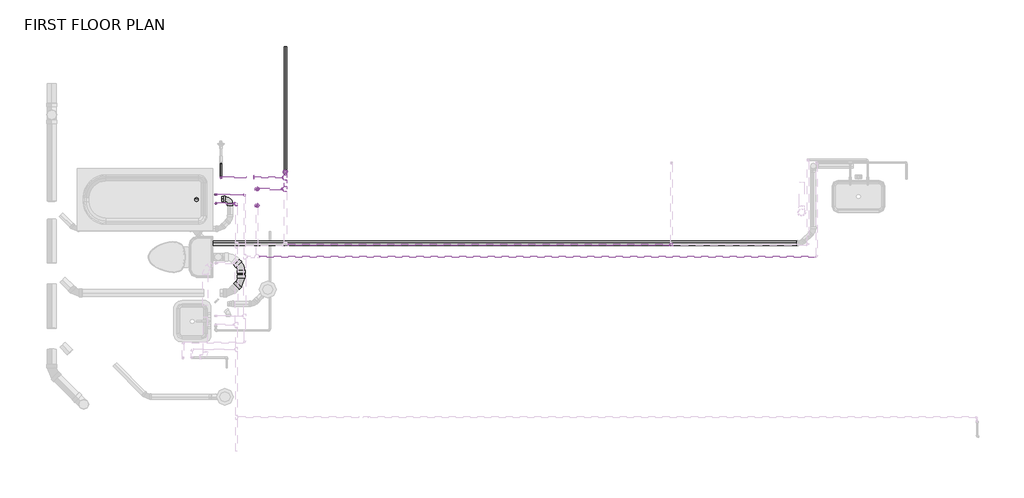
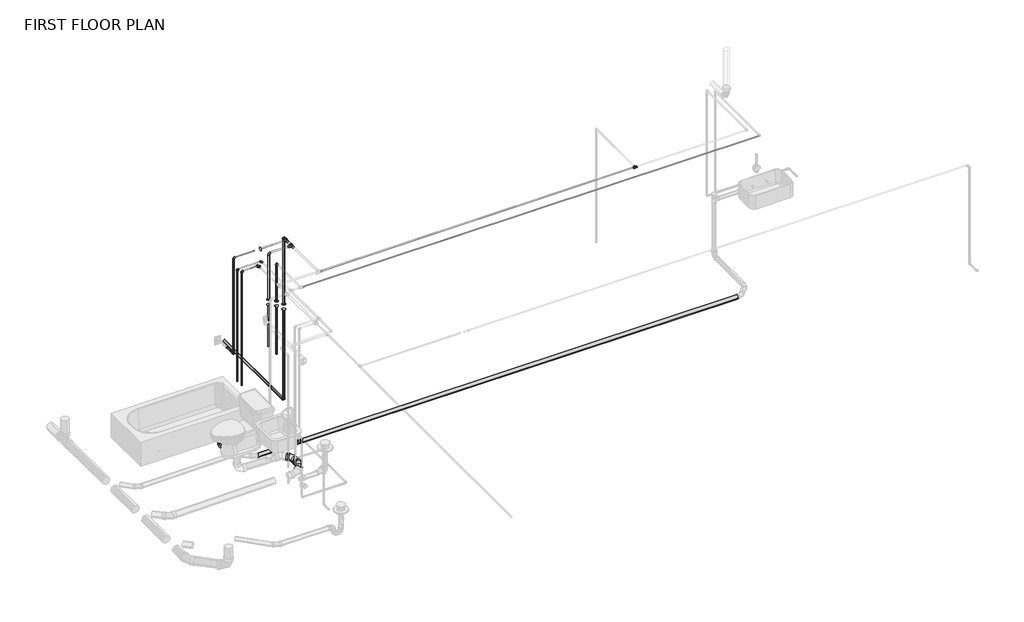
# One storey, part 4 of 5: 29 pipe fittings, 25 pipe segments.
"""IFC4 building model written with IfcOpenShell, lengths in millimetres."""

from ifc_helpers import new_model, si_unit, point, frame, frame_2d, origin, place, context, project, spatial, circle_curve, trimmed, segment, composite_curve, outline, extrude, transform, mapped, element, save
from components import bend_pvc_sch_40_dwv_standard_077d20b3, bend_pvc_sch_40_dwv_standard_3aed0458, bend_pvc_sch_40_dwv_standard_0afe4493, pipe_elbow_copper_k_feaaf02c, pipe_elbow_copper_k_a25a5501, pipe_elbow_copper_k_aad62f2d, pipe_elbow_copper_k_77fd4e2d, pipe_tee_copper_k_feafe2f1, pipe_tee_copper_k_1a6ca384, pipe_transition_copper_k_b4f16853, pipe_transition_copper_k_5e01dc24, pipe_transition_copper_k_b63fd5dd, pipe_transition_copper_k_7e8567c1, pipe_transition_copper_k_7620e501, pipe_transition_copper_k_f6820026, pipe_transition_copper_k_a6841901, standard_73d07651

model = new_model("IFC4")

# Units and contexts
model_context = context("Model", 3, world=origin())
ifc_project = project(units=[si_unit("LENGTHUNIT", "METRE", prefix="MILLI")], contexts=[model_context])

# Site, building, storey
site = spatial("IfcSite", under=ifc_project)
building = spatial("IfcBuilding", under=site)
storey = spatial("IfcBuildingStorey", under=building, Name="FIRST FLOOR PLAN", Elevation=0.0)

# Pipe fittings
placement = place(None, origin())
bend_pvc_sch_40_dwv_standard_shape = bend_pvc_sch_40_dwv_standard_077d20b3(model_context)
element("IfcPipeFitting", 1, ObjectType="Bend - PVC - Sch 40 - DWV : Standard", at=placement, inside=storey, context=model_context, shape_type="MappedRepresentation", body=[
    mapped(bend_pvc_sch_40_dwv_standard_shape, transform((-7069.1798887, 5136.4671175, -314.075923), x_axis=(0.0, 0.9999992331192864, -0.0012384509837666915), y_axis=(-0.9999457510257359, 1.2899821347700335e-05, 0.010416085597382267), z_axis=(0.010416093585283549, 0.0012383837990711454, 0.9999449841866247))),
])
bend_pvc_sch_40_dwv_standard_2_shape = bend_pvc_sch_40_dwv_standard_3aed0458(model_context)
element("IfcPipeFitting", 2, ObjectType="Bend - PVC - Sch 40 - DWV : Standard", at=placement, inside=storey, context=model_context, shape_type="MappedRepresentation", body=[
    mapped(bend_pvc_sch_40_dwv_standard_2_shape, transform((-6932.5348605, 4299.2251551, -302.2013767), x_axis=(0.0, 0.9999467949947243, 0.01031538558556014), y_axis=(-0.9999496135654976, 0.00010355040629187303, -0.010037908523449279), z_axis=(-0.010038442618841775, -0.010314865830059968, 0.9998964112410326))),
])
bend_pvc_sch_40_dwv_standard_3_shape = bend_pvc_sch_40_dwv_standard_0afe4493(model_context)
element("IfcPipeFitting", 3, ObjectType="Bend - PVC - Sch 40 - DWV : Standard", at=placement, inside=storey, context=model_context, shape_type="MappedRepresentation", body=[
    mapped(bend_pvc_sch_40_dwv_standard_3_shape, transform((-6932.5348605, 4114.7453192, -304.1044586), x_axis=(0.7070684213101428, 0.7070684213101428, 0.01041610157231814), y_axis=(-0.7071313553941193, 0.7070698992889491, 0.004171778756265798), z_axis=(-0.004415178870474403, -0.010315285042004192, 0.9999370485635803))),
])
pipe_elbow_copper_k_shape = pipe_elbow_copper_k_feaaf02c(model_context)
element("IfcPipeFitting", 4, ObjectType="Pipe Elbow : Copper- K", at=placement, inside=storey, context=model_context, shape_type="MappedRepresentation", body=[
    mapped(pipe_elbow_copper_k_shape, transform((-6737.6705726, 5260.1926405, 2298.1907004), x_axis=(0.0, 0.0, 1.0), y_axis=(1.0, 0.0, 0.0), z_axis=(0.0, 1.0, 0.0))),
])
pipe_elbow_copper_k_2_shape = pipe_elbow_copper_k_a25a5501(model_context)
element("IfcPipeFitting", 5, ObjectType="Pipe Elbow : Copper- K", at=placement, inside=storey, context=model_context, shape_type="MappedRepresentation", body=[
    mapped(pipe_elbow_copper_k_2_shape, transform((-6388.3015833, 5472.3983336, -277.858663), x_axis=(0.0, -1.0, 0.0), y_axis=(0.0, 0.0, 1.0), z_axis=(-1.0, 0.0, 0.0))),
])
element("IfcPipeFitting", 6, ObjectType="Pipe Elbow : Copper- K", at=placement, inside=storey, context=model_context, shape_type="MappedRepresentation", body=[
    mapped(pipe_elbow_copper_k_2_shape, transform((-6388.3015833, 5472.3983336, 2298.1907004), x_axis=(0.0, 0.0, 1.0), y_axis=(0.0, -1.0, 0.0), z_axis=(1.0, 0.0, 0.0))),
])
element("IfcPipeFitting", 7, ObjectType="Pipe Elbow : Copper- K", at=placement, inside=storey, context=model_context, shape_type="MappedRepresentation", body=[
    mapped(pipe_elbow_copper_k_2_shape, transform((-6991.3887487, 5082.3331459, 2298.2390728), x_axis=(0.0, 1.0, 0.0), y_axis=(-1.0, 0.0, 0.0), z_axis=(0.0, 0.0, 1.0))),
])
pipe_elbow_copper_k_3_shape = pipe_elbow_copper_k_aad62f2d(model_context)
element("IfcPipeFitting", 8, ObjectType="Pipe Elbow : Copper- K", at=placement, inside=storey, context=model_context, shape_type="MappedRepresentation", body=[
    mapped(pipe_elbow_copper_k_3_shape, transform((-7245.3887487, 5082.3331459, 2298.2390728), x_axis=(-1.0, 0.0, 0.0), y_axis=(0.0, 0.0, -1.0), z_axis=(0.0, -1.0, 0.0))),
])
element("IfcPipeFitting", 9, ObjectType="Pipe Elbow : Copper- K", at=placement, inside=storey, context=model_context, shape_type="MappedRepresentation", body=[
    mapped(pipe_elbow_copper_k_3_shape, transform((-6888.1181278, 5190.1641566, 2263.2789062), x_axis=(0.0, 1.0, 0.0), y_axis=(-1.0, 0.0, 0.0), z_axis=(0.0, 0.0, 1.0))),
])
element("IfcPipeFitting", 10, ObjectType="Pipe Elbow : Copper- K", at=placement, inside=storey, context=model_context, shape_type="MappedRepresentation", body=[
    mapped(pipe_elbow_copper_k_3_shape, transform((-7250.1512487, 5190.1641566, 2263.2789063), x_axis=(0.0, 0.0, 1.0), y_axis=(1.0, 0.0, 0.0), z_axis=(0.0, 1.0, 0.0))),
])
element("IfcPipeFitting", 11, ObjectType="Pipe Elbow : Copper- K", at=placement, inside=storey, context=model_context, shape_type="MappedRepresentation", body=[
    mapped(pipe_elbow_copper_k_3_shape, transform((-7183.0178129, 5402.6740168, 765.96875), x_axis=(0.0, -1.0, 0.0), y_axis=(0.0, 0.0, 1.0), z_axis=(-1.0, 0.0, 0.0))),
])
element("IfcPipeFitting", 12, ObjectType="Pipe Elbow : Copper- K", at=placement, inside=storey, context=model_context, shape_type="MappedRepresentation", body=[
    mapped(pipe_elbow_copper_k_3_shape, transform((-7183.0178129, 5402.6740168, 2298.2039063), x_axis=(0.0, 0.0, 1.0), y_axis=(1.0, 0.0, 0.0), z_axis=(0.0, 1.0, 0.0))),
])
pipe_elbow_copper_k_4_shape = pipe_elbow_copper_k_77fd4e2d(model_context)
element("IfcPipeFitting", 13, ObjectType="Pipe Elbow : Copper- K", at=placement, inside=storey, context=model_context, shape_type="MappedRepresentation", body=[
    mapped(pipe_elbow_copper_k_4_shape, transform((-6737.6705726, 5056.9926405, 2263.2290249), x_axis=(0.0, 0.0, 1.0), y_axis=(0.0, -1.0, 0.0), z_axis=(1.0, 0.0, 0.0))),
])
pipe_tee_copper_k_shape = pipe_tee_copper_k_feafe2f1(model_context)
element("IfcPipeFitting", 14, ObjectType="Pipe Tee : Copper- K", at=placement, inside=storey, context=model_context, shape_type="MappedRepresentation", body=[
    mapped(pipe_tee_copper_k_shape, transform((-6388.3015833, 5260.1926405, 2298.1907004), x_axis=(0.0, 1.0, 0.0), y_axis=(1.0, 0.0, 0.0), z_axis=(0.0, 0.0, -1.0))),
])
element("IfcPipeFitting", 15, ObjectType="Pipe Tee : Copper- K", at=placement, inside=storey, context=model_context, shape_type="MappedRepresentation", body=[
    mapped(pipe_tee_copper_k_shape, transform((-6388.3015833, 5402.6740168, 2298.1907004), x_axis=(0.0, 1.0, 0.0), y_axis=(1.0, 0.0, 0.0), z_axis=(0.0, 0.0, -1.0))),
])
pipe_tee_copper_k_2_shape = pipe_tee_copper_k_1a6ca384(model_context)
element("IfcPipeFitting", 16, ObjectType="Pipe Tee : Copper- K", at=placement, inside=storey, context=model_context, shape_type="MappedRepresentation", body=[
    mapped(pipe_tee_copper_k_2_shape, transform((-1625.4715551, 4569.6275273, 2298.2390728), x_axis=(1.0, 0.0, 0.0), y_axis=(0.0, -1.0, 0.0), z_axis=(0.0, 0.0, -1.0))),
])
pipe_transition_copper_k_shape = pipe_transition_copper_k_b4f16853(model_context)
element("IfcPipeFitting", 17, ObjectType="Pipe Transition : Copper- K", at=placement, inside=storey, context=model_context, shape_type="MappedRepresentation", body=[
    mapped(pipe_transition_copper_k_shape, transform((-6433.9433234, 5260.1926405, 2298.1907004), x_axis=(-1.0, 0.0, 0.0), y_axis=(0.0, -1.0, 0.0), z_axis=(0.0, 0.0, 1.0))),
])
pipe_transition_copper_k_2_shape = pipe_transition_copper_k_5e01dc24(model_context)
element("IfcPipeFitting", 18, ObjectType="Pipe Transition : Copper- K", at=placement, inside=storey, context=model_context, shape_type="MappedRepresentation", body=[
    mapped(pipe_transition_copper_k_2_shape, transform((-6388.3015833, 5472.3983336, 1157.216563), x_axis=(0.0, 0.0, 1.0), y_axis=(0.0, -1.0, 0.0), z_axis=(1.0, 0.0, 0.0))),
])
element("IfcPipeFitting", 19, ObjectType="Pipe Transition : Copper- K", at=placement, inside=storey, context=model_context, shape_type="MappedRepresentation", body=[
    mapped(pipe_transition_copper_k_2_shape, transform((-6388.3015833, 5472.3983336, 1248.434313), x_axis=(0.0, 0.0, -1.0), y_axis=(0.0, 1.0, 0.0), z_axis=(1.0, 0.0, 0.0))),
])
pipe_transition_copper_k_3_shape = pipe_transition_copper_k_b63fd5dd(model_context)
element("IfcPipeFitting", 20, ObjectType="Pipe Transition : Copper- K", at=placement, inside=storey, context=model_context, shape_type="MappedRepresentation", body=[
    mapped(pipe_transition_copper_k_3_shape, transform((-7015.2012487, 5082.3331459, 2298.2390728), x_axis=(-1.0, 0.0, 0.0), y_axis=(0.0, -1.0, 0.0), z_axis=(0.0, 0.0, 1.0))),
])
element("IfcPipeFitting", 21, ObjectType="Pipe Transition : Copper- K", at=placement, inside=storey, context=model_context, shape_type="MappedRepresentation", body=[
    mapped(pipe_transition_copper_k_3_shape, transform((-6991.3887487, 5058.5206459, 2298.2390728), x_axis=(0.0, -1.0, 0.0), y_axis=(1.0, 0.0, 0.0), z_axis=(0.0, 0.0, 1.0))),
])
pipe_transition_copper_k_4_shape = pipe_transition_copper_k_7e8567c1(model_context)
element("IfcPipeFitting", 22, ObjectType="Pipe Transition : Copper- K", at=placement, inside=storey, context=model_context, shape_type="MappedRepresentation", body=[
    mapped(pipe_transition_copper_k_4_shape, transform((-6737.6705726, 5260.1926405, 1482.1398416), x_axis=(0.0, 0.0, 1.0), y_axis=(0.0, 1.0, 0.0), z_axis=(-1.0, 0.0, 0.0))),
])
element("IfcPipeFitting", 23, ObjectType="Pipe Transition : Copper- K", at=placement, inside=storey, context=model_context, shape_type="MappedRepresentation", body=[
    mapped(pipe_transition_copper_k_4_shape, transform((-6737.6705726, 5260.1926405, 1573.3575916), x_axis=(0.0, 0.0, -1.0), y_axis=(0.0, -1.0, 0.0), z_axis=(-1.0, 0.0, 0.0))),
])
element("IfcPipeFitting", 24, ObjectType="Pipe Transition : Copper- K", at=placement, inside=storey, context=model_context, shape_type="MappedRepresentation", body=[
    mapped(pipe_transition_copper_k_4_shape, transform((-6737.6705726, 5056.9926405, 1581.00028), x_axis=(0.0, 0.0, 1.0), y_axis=(0.0, 1.0, 0.0), z_axis=(-1.0, 0.0, 0.0))),
])
element("IfcPipeFitting", 25, ObjectType="Pipe Transition : Copper- K", at=placement, inside=storey, context=model_context, shape_type="MappedRepresentation", body=[
    mapped(pipe_transition_copper_k_4_shape, transform((-6737.6705726, 5056.9926405, 1672.21803), x_axis=(0.0, 0.0, -1.0), y_axis=(0.0, -1.0, 0.0), z_axis=(-1.0, 0.0, 0.0))),
])
pipe_transition_copper_k_5_shape = pipe_transition_copper_k_7620e501(model_context)
element("IfcPipeFitting", 26, ObjectType="Pipe Transition : Copper- K", at=placement, inside=storey, context=model_context, shape_type="MappedRepresentation", body=[
    mapped(pipe_transition_copper_k_5_shape, transform((-7183.0178129, 5577.6926405, 765.96875), x_axis=(0.0, -1.0, 0.0), y_axis=(1.0, 0.0, 0.0), z_axis=(0.0, 0.0, 1.0))),
])
pipe_transition_copper_k_6_shape = pipe_transition_copper_k_f6820026(model_context)
element("IfcPipeFitting", 27, ObjectType="Pipe Transition : Copper- K", at=placement, inside=storey, context=model_context, shape_type="MappedRepresentation", body=[
    mapped(pipe_transition_copper_k_6_shape, transform((-6418.4640833, 5402.6740168, 2298.1445374), x_axis=(-1.0, 0.0, 0.0), y_axis=(0.0, -1.0, 0.0), z_axis=(0.0, 0.0, 1.0))),
])
pipe_transition_copper_k_7_shape = pipe_transition_copper_k_a6841901(model_context)
element("IfcPipeFitting", 28, ObjectType="Pipe Transition : Copper- K", at=placement, inside=storey, context=model_context, shape_type="MappedRepresentation", body=[
    mapped(pipe_transition_copper_k_7_shape, transform((-6772.292912, 5402.6740168, 2298.1907004), x_axis=(-1.0, 0.0, 0.0), y_axis=(0.0, -1.0, 0.0), z_axis=(0.0, 0.0, 1.0))),
])
standard_shape = standard_73d07651(model_context)
element("IfcPipeFitting", 29, ObjectType="GES P TRAP PVC Sch 40 - DWV : Standard", at=placement, inside=storey, context=model_context, shape_type="MappedRepresentation", body=[
    mapped(standard_shape, transform((-7540.0103294, 5136.4671175, -311.4496624), x_axis=(7.102731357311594e-08, -7.057895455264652e-08, -0.999999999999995), y_axis=(0.9999999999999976, 0.0, 7.102731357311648e-08), z_axis=(0.0, -0.9999999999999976, 7.057895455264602e-08))),
])

# Pipe segments
element("IfcPipeSegment", 30, ObjectType="Copper", at=placement, inside=storey, context=model_context, shape_type="SweptSolid", body=[
    extrude(outline(composite_curve([segment(trimmed(circle_curve(frame_2d((-277.858663, -6388.3015833)), 14.2875), [point((-277.858663, -6402.5890833))], [point((-292.146163, -6388.3015833))], False, "CARTESIAN"), True, "CONTINUOUS"), segment(trimmed(circle_curve(frame_2d((-277.858663, -6388.3015833)), 14.2875), [point((-292.146163, -6388.3015833))], [point((-277.858663, -6374.0140833))], False, "CARTESIAN"), True, "CONTINUOUS"), segment(trimmed(circle_curve(frame_2d((-277.858663, -6388.3015833)), 14.2875), [point((-277.858663, -6374.0140833))], [point((-263.571163, -6388.3015833))], False, "CARTESIAN"), True, "CONTINUOUS"), segment(trimmed(circle_curve(frame_2d((-277.858663, -6388.3015833)), 14.2875), [point((-263.571163, -6388.3015833))], [point((-277.858663, -6402.5890833))], False, "CARTESIAN"), True, "CONTINUOUS")], self_intersect=False)), frame((0.0, 5496.2108336, 0.0), z_axis=(0.0, 1.0, 0.0), x_axis=(0.0, 0.0, 1.0)), (0.0, 0.0, 1.0), 1523.3616836),
])
element("IfcPipeSegment", 31, ObjectType="Copper", at=placement, inside=storey, context=model_context, shape_type="SweptSolid", body=[
    extrude(outline(composite_curve([segment(trimmed(circle_curve(frame_2d((-6388.3015833, 5472.3983336)), 14.2875), [point((-6402.5890833, 5472.3983336))], [point((-6388.3015833, 5486.6858336))], False, "CARTESIAN"), True, "CONTINUOUS"), segment(trimmed(circle_curve(frame_2d((-6388.3015833, 5472.3983336)), 14.2875), [point((-6388.3015833, 5486.6858336))], [point((-6374.0140833, 5472.3983336))], False, "CARTESIAN"), True, "CONTINUOUS"), segment(trimmed(circle_curve(frame_2d((-6388.3015833, 5472.3983336)), 14.2875), [point((-6374.0140833, 5472.3983336))], [point((-6388.3015833, 5458.1108336))], False, "CARTESIAN"), True, "CONTINUOUS"), segment(trimmed(circle_curve(frame_2d((-6388.3015833, 5472.3983336)), 14.2875), [point((-6388.3015833, 5458.1108336))], [point((-6402.5890833, 5472.3983336))], False, "CARTESIAN"), True, "CONTINUOUS")], self_intersect=False)), frame((0.0, 0.0, 1248.434313), z_axis=(0.0, 0.0, 1.0), x_axis=(1.0, 0.0, 0.0)), (0.0, 0.0, 1.0), 1025.9438874),
])
element("IfcPipeSegment", 32, ObjectType="Copper", at=placement, inside=storey, context=model_context, shape_type="SweptSolid", body=[
    extrude(outline(composite_curve([segment(trimmed(circle_curve(frame_2d((5260.1926405, 2298.1907004)), 11.1125), [point((5249.0801405, 2298.1907004))], [point((5260.1926405, 2309.3032004))], False, "CARTESIAN"), True, "CONTINUOUS"), segment(trimmed(circle_curve(frame_2d((5260.1926405, 2298.1907004)), 11.1125), [point((5260.1926405, 2309.3032004))], [point((5271.3051405, 2298.1907004))], False, "CARTESIAN"), True, "CONTINUOUS"), segment(trimmed(circle_curve(frame_2d((5260.1926405, 2298.1907004)), 11.1125), [point((5271.3051405, 2298.1907004))], [point((5260.1926405, 2287.0782004))], False, "CARTESIAN"), True, "CONTINUOUS"), segment(trimmed(circle_curve(frame_2d((5260.1926405, 2298.1907004)), 11.1125), [point((5260.1926405, 2287.0782004))], [point((5249.0801405, 2298.1907004))], False, "CARTESIAN"), True, "CONTINUOUS")], self_intersect=False)), frame((-6717.0330726, 0.0, 0.0), z_axis=(1.0, 0.0, 0.0), x_axis=(0.0, 1.0, 0.0)), (0.0, 0.0, 1.0), 275.9459992),
])
element("IfcPipeSegment", 33, ObjectType="Copper", at=placement, inside=storey, context=model_context, shape_type="SweptSolid", body=[
    extrude(outline(composite_curve([segment(trimmed(circle_curve(frame_2d((-6737.6705726, 5260.1926405)), 11.1125), [point((-6748.7830726, 5260.1926405))], [point((-6737.6705726, 5271.3051405))], False, "CARTESIAN"), True, "CONTINUOUS"), segment(trimmed(circle_curve(frame_2d((-6737.6705726, 5260.1926405)), 11.1125), [point((-6737.6705726, 5271.3051405))], [point((-6726.5580726, 5260.1926405))], False, "CARTESIAN"), True, "CONTINUOUS"), segment(trimmed(circle_curve(frame_2d((-6737.6705726, 5260.1926405)), 11.1125), [point((-6726.5580726, 5260.1926405))], [point((-6737.6705726, 5249.0801405))], False, "CARTESIAN"), True, "CONTINUOUS"), segment(trimmed(circle_curve(frame_2d((-6737.6705726, 5260.1926405)), 11.1125), [point((-6737.6705726, 5249.0801405))], [point((-6748.7830726, 5260.1926405))], False, "CARTESIAN"), True, "CONTINUOUS")], self_intersect=False)), frame((0.0, 0.0, 1573.3575916), z_axis=(0.0, 0.0, 1.0), x_axis=(1.0, 0.0, 0.0)), (0.0, 0.0, 1.0), 704.1956088),
])
element("IfcPipeSegment", 34, ObjectType="Copper", at=placement, inside=storey, context=model_context, shape_type="SweptSolid", body=[
    extrude(outline(composite_curve([segment(trimmed(circle_curve(frame_2d((5260.1926405, 2298.1907004)), 14.2875), [point((5274.4801405, 2298.1907004))], [point((5260.1926405, 2283.9032004))], False, "CARTESIAN"), True, "CONTINUOUS"), segment(trimmed(circle_curve(frame_2d((5260.1926405, 2298.1907004)), 14.2875), [point((5260.1926405, 2283.9032004))], [point((5245.9051405, 2298.1907004))], False, "CARTESIAN"), True, "CONTINUOUS"), segment(trimmed(circle_curve(frame_2d((5260.1926405, 2298.1907004)), 14.2875), [point((5245.9051405, 2298.1907004))], [point((5260.1926405, 2312.4782004))], False, "CARTESIAN"), True, "CONTINUOUS"), segment(trimmed(circle_curve(frame_2d((5260.1926405, 2298.1907004)), 14.2875), [point((5260.1926405, 2312.4782004))], [point((5274.4801405, 2298.1907004))], False, "CARTESIAN"), True, "CONTINUOUS")], self_intersect=False)), frame((-6433.9433234, 0.0, 0.0), z_axis=(1.0, 0.0, 0.0), x_axis=(0.0, 1.0, 0.0)), (0.0, 0.0, 1.0), 15.4792401),
])
element("IfcPipeSegment", 35, ObjectType="Copper", at=placement, inside=storey, context=model_context, shape_type="SweptSolid", body=[
    extrude(outline(composite_curve([segment(trimmed(circle_curve(frame_2d((-6388.3015833, 5472.3983336)), 14.2875), [point((-6402.5890833, 5472.3983336))], [point((-6388.3015833, 5486.6858336))], False, "CARTESIAN"), True, "CONTINUOUS"), segment(trimmed(circle_curve(frame_2d((-6388.3015833, 5472.3983336)), 14.2875), [point((-6388.3015833, 5486.6858336))], [point((-6374.0140833, 5472.3983336))], False, "CARTESIAN"), True, "CONTINUOUS"), segment(trimmed(circle_curve(frame_2d((-6388.3015833, 5472.3983336)), 14.2875), [point((-6374.0140833, 5472.3983336))], [point((-6388.3015833, 5458.1108336))], False, "CARTESIAN"), True, "CONTINUOUS"), segment(trimmed(circle_curve(frame_2d((-6388.3015833, 5472.3983336)), 14.2875), [point((-6388.3015833, 5458.1108336))], [point((-6402.5890833, 5472.3983336))], False, "CARTESIAN"), True, "CONTINUOUS")], self_intersect=False)), frame((0.0, 0.0, -254.046163), z_axis=(0.0, 0.0, 1.0), x_axis=(1.0, 0.0, 0.0)), (0.0, 0.0, 1.0), 1411.262726),
])
element("IfcPipeSegment", 36, ObjectType="Copper", at=placement, inside=storey, context=model_context, shape_type="SweptSolid", body=[
    extrude(outline(composite_curve([segment(trimmed(circle_curve(frame_2d((-6737.6705726, 5056.9926405)), 11.1125), [point((-6748.7830726, 5056.9926405))], [point((-6737.6705726, 5068.1051405))], False, "CARTESIAN"), True, "CONTINUOUS"), segment(trimmed(circle_curve(frame_2d((-6737.6705726, 5056.9926405)), 11.1125), [point((-6737.6705726, 5068.1051405))], [point((-6726.5580726, 5056.9926405))], False, "CARTESIAN"), True, "CONTINUOUS"), segment(trimmed(circle_curve(frame_2d((-6737.6705726, 5056.9926405)), 11.1125), [point((-6726.5580726, 5056.9926405))], [point((-6737.6705726, 5045.8801405))], False, "CARTESIAN"), True, "CONTINUOUS"), segment(trimmed(circle_curve(frame_2d((-6737.6705726, 5056.9926405)), 11.1125), [point((-6737.6705726, 5045.8801405))], [point((-6748.7830726, 5056.9926405))], False, "CARTESIAN"), True, "CONTINUOUS")], self_intersect=False)), frame((0.0, 0.0, 1672.21803), z_axis=(0.0, 0.0, 1.0), x_axis=(1.0, 0.0, 0.0)), (0.0, 0.0, 1.0), 570.3751137),
])
element("IfcPipeSegment", 37, ObjectType="Copper", at=placement, inside=storey, context=model_context, shape_type="SweptSolid", body=[
    extrude(outline(composite_curve([segment(trimmed(circle_curve(frame_2d((5082.3331459, 2298.2390728)), 7.9375), [point((5074.3956459, 2298.2390728))], [point((5082.3331459, 2306.1765728))], False, "CARTESIAN"), True, "CONTINUOUS"), segment(trimmed(circle_curve(frame_2d((5082.3331459, 2298.2390728)), 7.9375), [point((5082.3331459, 2306.1765728))], [point((5090.2706459, 2298.2390728))], False, "CARTESIAN"), True, "CONTINUOUS"), segment(trimmed(circle_curve(frame_2d((5082.3331459, 2298.2390728)), 7.9375), [point((5090.2706459, 2298.2390728))], [point((5082.3331459, 2290.3015728))], False, "CARTESIAN"), True, "CONTINUOUS"), segment(trimmed(circle_curve(frame_2d((5082.3331459, 2298.2390728)), 7.9375), [point((5082.3331459, 2290.3015728))], [point((5074.3956459, 2298.2390728))], False, "CARTESIAN"), True, "CONTINUOUS")], self_intersect=False)), frame((-7227.9262487, 0.0, 0.0), z_axis=(1.0, 0.0, 0.0), x_axis=(0.0, 1.0, 0.0)), (0.0, 0.0, 1.0), 205.58125),
])
element("IfcPipeSegment", 38, ObjectType="Copper", at=placement, inside=storey, context=model_context, shape_type="SweptSolid", body=[
    extrude(outline(composite_curve([segment(trimmed(circle_curve(frame_2d((5190.1641566, 2263.2789062)), 7.9375), [point((5198.1016566, 2263.2789062))], [point((5190.1641566, 2255.3414062))], False, "CARTESIAN"), True, "CONTINUOUS"), segment(trimmed(circle_curve(frame_2d((5190.1641566, 2263.2789062)), 7.9375), [point((5190.1641566, 2255.3414062))], [point((5182.2266566, 2263.2789062))], False, "CARTESIAN"), True, "CONTINUOUS"), segment(trimmed(circle_curve(frame_2d((5190.1641566, 2263.2789062)), 7.9375), [point((5182.2266566, 2263.2789062))], [point((5190.1641566, 2271.2164062))], False, "CARTESIAN"), True, "CONTINUOUS"), segment(trimmed(circle_curve(frame_2d((5190.1641566, 2263.2789062)), 7.9375), [point((5190.1641566, 2271.2164062))], [point((5198.1016566, 2263.2789062))], False, "CARTESIAN"), True, "CONTINUOUS")], self_intersect=False)), frame((-7232.6887487, 0.0, 0.0), z_axis=(1.0, 0.0, 0.0), x_axis=(0.0, 1.0, 0.0)), (0.0, 0.0, 1.0), 327.1081209),
])
element("IfcPipeSegment", 39, ObjectType="Copper", at=placement, inside=storey, context=model_context, shape_type="SweptSolid", body=[
    extrude(outline(composite_curve([segment(trimmed(circle_curve(frame_2d((-7250.1512487, 5190.1641566)), 7.9375), [point((-7242.2137487, 5190.1641566))], [point((-7250.1512487, 5182.2266566))], False, "CARTESIAN"), True, "CONTINUOUS"), segment(trimmed(circle_curve(frame_2d((-7250.1512487, 5190.1641566)), 7.9375), [point((-7250.1512487, 5182.2266566))], [point((-7258.0887487, 5190.1641566))], False, "CARTESIAN"), True, "CONTINUOUS"), segment(trimmed(circle_curve(frame_2d((-7250.1512487, 5190.1641566)), 7.9375), [point((-7258.0887487, 5190.1641566))], [point((-7250.1512487, 5198.1016566))], False, "CARTESIAN"), True, "CONTINUOUS"), segment(trimmed(circle_curve(frame_2d((-7250.1512487, 5190.1641566)), 7.9375), [point((-7250.1512487, 5198.1016566))], [point((-7242.2137487, 5190.1641566))], False, "CARTESIAN"), True, "CONTINUOUS")], self_intersect=False)), frame((0.0, 0.0, 485.2789063), z_axis=(0.0, 0.0, 1.0), x_axis=(1.0, 0.0, 0.0)), (0.0, 0.0, 1.0), 1760.5375),
])
element("IfcPipeSegment", 40, ObjectType="Copper", at=placement, inside=storey, context=model_context, shape_type="SweptSolid", body=[
    extrude(outline(composite_curve([segment(trimmed(circle_curve(frame_2d((-7245.3887487, 5082.3331459)), 7.9375), [point((-7237.4512487, 5082.3331459))], [point((-7245.3887487, 5074.3956459))], False, "CARTESIAN"), True, "CONTINUOUS"), segment(trimmed(circle_curve(frame_2d((-7245.3887487, 5082.3331459)), 7.9375), [point((-7245.3887487, 5074.3956459))], [point((-7253.3262487, 5082.3331459))], False, "CARTESIAN"), True, "CONTINUOUS"), segment(trimmed(circle_curve(frame_2d((-7245.3887487, 5082.3331459)), 7.9375), [point((-7253.3262487, 5082.3331459))], [point((-7245.3887487, 5090.2706459))], False, "CARTESIAN"), True, "CONTINUOUS"), segment(trimmed(circle_curve(frame_2d((-7245.3887487, 5082.3331459)), 7.9375), [point((-7245.3887487, 5090.2706459))], [point((-7237.4512487, 5082.3331459))], False, "CARTESIAN"), True, "CONTINUOUS")], self_intersect=False)), frame((0.0, 0.0, 485.2789063), z_axis=(0.0, 0.0, 1.0), x_axis=(1.0, 0.0, 0.0)), (0.0, 0.0, 1.0), 1795.4976666),
])
element("IfcPipeSegment", 41, ObjectType="Copper", at=placement, inside=storey, context=model_context, shape_type="SweptSolid", body=[
    extrude(outline(composite_curve([segment(trimmed(circle_curve(frame_2d((4421.9926405, 2263.2789062)), 7.9375), [point((4429.9301405, 2263.2789062))], [point((4421.9926405, 2255.3414062))], False, "CARTESIAN"), True, "CONTINUOUS"), segment(trimmed(circle_curve(frame_2d((4421.9926405, 2263.2789062)), 7.9375), [point((4421.9926405, 2255.3414062))], [point((4414.0551405, 2263.2789062))], False, "CARTESIAN"), True, "CONTINUOUS"), segment(trimmed(circle_curve(frame_2d((4421.9926405, 2263.2789062)), 7.9375), [point((4414.0551405, 2263.2789062))], [point((4421.9926405, 2271.2164062))], False, "CARTESIAN"), True, "CONTINUOUS"), segment(trimmed(circle_curve(frame_2d((4421.9926405, 2263.2789062)), 7.9375), [point((4421.9926405, 2271.2164062))], [point((4429.9301405, 2263.2789062))], False, "CARTESIAN"), True, "CONTINUOUS")], self_intersect=False)), frame((-6705.1268226, 0.0, 0.0), z_axis=(1.0, 0.0, 0.0), x_axis=(0.0, 1.0, 0.0)), (0.0, 0.0, 1.0), 6853.3333824),
])
element("IfcPipeSegment", 42, ObjectType="Copper", at=placement, inside=storey, context=model_context, shape_type="SweptSolid", body=[
    extrude(outline(composite_curve([segment(trimmed(circle_curve(frame_2d((4569.6275273, 2298.2390728)), 7.9375), [point((4577.5650273, 2298.2390728))], [point((4569.6275273, 2290.3015728))], False, "CARTESIAN"), True, "CONTINUOUS"), segment(trimmed(circle_curve(frame_2d((4569.6275273, 2298.2390728)), 7.9375), [point((4569.6275273, 2290.3015728))], [point((4561.6900273, 2298.2390728))], False, "CARTESIAN"), True, "CONTINUOUS"), segment(trimmed(circle_curve(frame_2d((4569.6275273, 2298.2390728)), 7.9375), [point((4561.6900273, 2298.2390728))], [point((4569.6275273, 2306.1765728))], False, "CARTESIAN"), True, "CONTINUOUS"), segment(trimmed(circle_curve(frame_2d((4569.6275273, 2298.2390728)), 7.9375), [point((4569.6275273, 2306.1765728))], [point((4577.5650273, 2298.2390728))], False, "CARTESIAN"), True, "CONTINUOUS")], self_intersect=False)), frame((-6350.9953333, 0.0, 0.0), z_axis=(1.0, 0.0, 0.0), x_axis=(0.0, 1.0, 0.0)), (0.0, 0.0, 1.0), 4701.7112782),
])
element("IfcPipeSegment", 43, ObjectType="Copper", at=placement, inside=storey, context=model_context, shape_type="SweptSolid", body=[
    extrude(outline(composite_curve([segment(trimmed(circle_curve(frame_2d((-6737.6705726, 5260.1926405)), 11.1125), [point((-6748.7830726, 5260.1926405))], [point((-6737.6705726, 5271.3051405))], False, "CARTESIAN"), True, "CONTINUOUS"), segment(trimmed(circle_curve(frame_2d((-6737.6705726, 5260.1926405)), 11.1125), [point((-6737.6705726, 5271.3051405))], [point((-6726.5580726, 5260.1926405))], False, "CARTESIAN"), True, "CONTINUOUS"), segment(trimmed(circle_curve(frame_2d((-6737.6705726, 5260.1926405)), 11.1125), [point((-6726.5580726, 5260.1926405))], [point((-6737.6705726, 5249.0801405))], False, "CARTESIAN"), True, "CONTINUOUS"), segment(trimmed(circle_curve(frame_2d((-6737.6705726, 5260.1926405)), 11.1125), [point((-6737.6705726, 5249.0801405))], [point((-6748.7830726, 5260.1926405))], False, "CARTESIAN"), True, "CONTINUOUS")], self_intersect=False)), frame((0.0, 0.0, 822.325), z_axis=(0.0, 0.0, 1.0), x_axis=(1.0, 0.0, 0.0)), (0.0, 0.0, 1.0), 659.8148416),
])
element("IfcPipeSegment", 44, ObjectType="Copper", at=placement, inside=storey, context=model_context, shape_type="SweptSolid", body=[
    extrude(outline(composite_curve([segment(trimmed(circle_curve(frame_2d((-6737.6705726, 5056.9926405)), 11.1125), [point((-6748.7830726, 5056.9926405))], [point((-6737.6705726, 5068.1051405))], False, "CARTESIAN"), True, "CONTINUOUS"), segment(trimmed(circle_curve(frame_2d((-6737.6705726, 5056.9926405)), 11.1125), [point((-6737.6705726, 5068.1051405))], [point((-6726.5580726, 5056.9926405))], False, "CARTESIAN"), True, "CONTINUOUS"), segment(trimmed(circle_curve(frame_2d((-6737.6705726, 5056.9926405)), 11.1125), [point((-6726.5580726, 5056.9926405))], [point((-6737.6705726, 5045.8801405))], False, "CARTESIAN"), True, "CONTINUOUS"), segment(trimmed(circle_curve(frame_2d((-6737.6705726, 5056.9926405)), 11.1125), [point((-6737.6705726, 5045.8801405))], [point((-6748.7830726, 5056.9926405))], False, "CARTESIAN"), True, "CONTINUOUS")], self_intersect=False)), frame((0.0, 0.0, 822.325), z_axis=(0.0, 0.0, 1.0), x_axis=(1.0, 0.0, 0.0)), (0.0, 0.0, 1.0), 758.67528),
])
element("IfcPipeSegment", 45, ObjectType="Copper", at=placement, inside=storey, context=model_context, shape_type="SweptSolid", body=[
    extrude(outline(composite_curve([segment(trimmed(circle_curve(frame_2d((765.96875, -7183.0178129)), 7.9375), [point((765.96875, -7190.9553129))], [point((758.03125, -7183.0178129))], False, "CARTESIAN"), True, "CONTINUOUS"), segment(trimmed(circle_curve(frame_2d((765.96875, -7183.0178129)), 7.9375), [point((758.03125, -7183.0178129))], [point((765.96875, -7175.0803129))], False, "CARTESIAN"), True, "CONTINUOUS"), segment(trimmed(circle_curve(frame_2d((765.96875, -7183.0178129)), 7.9375), [point((765.96875, -7175.0803129))], [point((773.90625, -7183.0178129))], False, "CARTESIAN"), True, "CONTINUOUS"), segment(trimmed(circle_curve(frame_2d((765.96875, -7183.0178129)), 7.9375), [point((773.90625, -7183.0178129))], [point((765.96875, -7190.9553129))], False, "CARTESIAN"), True, "CONTINUOUS")], self_intersect=False)), frame((0.0, 5420.1365168, 0.0), z_axis=(0.0, 1.0, 0.0), x_axis=(0.0, 0.0, 1.0)), (0.0, 0.0, 1.0), 151.9998737),
])
element("IfcPipeSegment", 46, ObjectType="Copper", at=placement, inside=storey, context=model_context, shape_type="SweptSolid", body=[
    extrude(outline(composite_curve([segment(trimmed(circle_curve(frame_2d((5402.6740168, 2298.1907004)), 7.9375), [point((5410.6115168, 2298.1907004))], [point((5402.6740168, 2290.2532004))], False, "CARTESIAN"), True, "CONTINUOUS"), segment(trimmed(circle_curve(frame_2d((5402.6740168, 2298.1907004)), 7.9375), [point((5402.6740168, 2290.2532004))], [point((5394.7365168, 2298.1907004))], False, "CARTESIAN"), True, "CONTINUOUS"), segment(trimmed(circle_curve(frame_2d((5402.6740168, 2298.1907004)), 7.9375), [point((5394.7365168, 2298.1907004))], [point((5402.6740168, 2306.1282004))], False, "CARTESIAN"), True, "CONTINUOUS"), segment(trimmed(circle_curve(frame_2d((5402.6740168, 2298.1907004)), 7.9375), [point((5402.6740168, 2306.1282004))], [point((5410.6115168, 2298.1907004))], False, "CARTESIAN"), True, "CONTINUOUS")], self_intersect=False)), frame((-6772.292912, 0.0, 0.0), z_axis=(1.0, 0.0, 0.0), x_axis=(0.0, 1.0, 0.0)), (0.0, 0.0, 1.0), 346.6850787),
])
element("IfcPipeSegment", 47, ObjectType="Copper", at=placement, inside=storey, context=model_context, shape_type="SweptSolid", body=[
    extrude(outline(composite_curve([segment(trimmed(circle_curve(frame_2d((2298.1907004, -6388.3015833)), 14.2875), [point((2298.1907004, -6402.5890833))], [point((2283.9032004, -6388.3015833))], False, "CARTESIAN"), True, "CONTINUOUS"), segment(trimmed(circle_curve(frame_2d((2298.1907004, -6388.3015833)), 14.2875), [point((2283.9032004, -6388.3015833))], [point((2298.1907004, -6374.0140833))], False, "CARTESIAN"), True, "CONTINUOUS"), segment(trimmed(circle_curve(frame_2d((2298.1907004, -6388.3015833)), 14.2875), [point((2298.1907004, -6374.0140833))], [point((2312.4782004, -6388.3015833))], False, "CARTESIAN"), True, "CONTINUOUS"), segment(trimmed(circle_curve(frame_2d((2298.1907004, -6388.3015833)), 14.2875), [point((2312.4782004, -6388.3015833))], [point((2298.1907004, -6402.5890833))], False, "CARTESIAN"), True, "CONTINUOUS")], self_intersect=False)), frame((0.0, 5290.3551405, 0.0), z_axis=(0.0, 1.0, 0.0), x_axis=(0.0, 0.0, 1.0)), (0.0, 0.0, 1.0), 82.1563763),
])
element("IfcPipeSegment", 48, ObjectType="Copper", at=placement, inside=storey, context=model_context, shape_type="SweptSolid", body=[
    extrude(outline(composite_curve([segment(trimmed(circle_curve(frame_2d((2298.1907004, -6388.3015833)), 14.2875), [point((2298.1907004, -6402.5890833))], [point((2283.9032004, -6388.3015833))], False, "CARTESIAN"), True, "CONTINUOUS"), segment(trimmed(circle_curve(frame_2d((2298.1907004, -6388.3015833)), 14.2875), [point((2283.9032004, -6388.3015833))], [point((2298.1907004, -6374.0140833))], False, "CARTESIAN"), True, "CONTINUOUS"), segment(trimmed(circle_curve(frame_2d((2298.1907004, -6388.3015833)), 14.2875), [point((2298.1907004, -6374.0140833))], [point((2312.4782004, -6388.3015833))], False, "CARTESIAN"), True, "CONTINUOUS"), segment(trimmed(circle_curve(frame_2d((2298.1907004, -6388.3015833)), 14.2875), [point((2312.4782004, -6388.3015833))], [point((2298.1907004, -6402.5890833))], False, "CARTESIAN"), True, "CONTINUOUS")], self_intersect=False)), frame((0.0, 5432.8365168, 0.0), z_axis=(0.0, 1.0, 0.0), x_axis=(0.0, 0.0, 1.0)), (0.0, 0.0, 1.0), 15.7493168),
])
element("IfcPipeSegment", 49, ObjectType="Copper", at=placement, inside=storey, context=model_context, shape_type="SweptSolid", body=[
    extrude(outline(composite_curve([segment(trimmed(circle_curve(frame_2d((5402.6740168, 2298.1577433)), 7.9375), [point((5410.6115168, 2298.1577433))], [point((5402.6740168, 2290.2202433))], False, "CARTESIAN"), True, "CONTINUOUS"), segment(trimmed(circle_curve(frame_2d((5402.6740168, 2298.1577433)), 7.9375), [point((5402.6740168, 2290.2202433))], [point((5394.7365168, 2298.1577433))], False, "CARTESIAN"), True, "CONTINUOUS"), segment(trimmed(circle_curve(frame_2d((5402.6740168, 2298.1577433)), 7.9375), [point((5394.7365168, 2298.1577433))], [point((5402.6740168, 2306.0952433))], False, "CARTESIAN"), True, "CONTINUOUS"), segment(trimmed(circle_curve(frame_2d((5402.6740168, 2298.1577433)), 7.9375), [point((5402.6740168, 2306.0952433))], [point((5410.6115168, 2298.1577433))], False, "CARTESIAN"), True, "CONTINUOUS")], self_intersect=False)), frame((-7165.5553129, 0.0, 0.0), z_axis=(1.0, 0.0, 0.0), x_axis=(0.0, 1.0, 0.0)), (0.0, 0.0, 1.0), 295.2977759),
])
element("IfcPipeSegment", 50, ObjectType="Copper", at=placement, inside=storey, context=model_context, shape_type="SweptSolid", body=[
    extrude(outline(composite_curve([segment(trimmed(circle_curve(frame_2d((-7183.0178129, 5402.6740168)), 7.9375), [point((-7190.9553129, 5402.6740168))], [point((-7183.0178129, 5410.6115168))], False, "CARTESIAN"), True, "CONTINUOUS"), segment(trimmed(circle_curve(frame_2d((-7183.0178129, 5402.6740168)), 7.9375), [point((-7183.0178129, 5410.6115168))], [point((-7175.0803129, 5402.6740168))], False, "CARTESIAN"), True, "CONTINUOUS"), segment(trimmed(circle_curve(frame_2d((-7183.0178129, 5402.6740168)), 7.9375), [point((-7175.0803129, 5402.6740168))], [point((-7183.0178129, 5394.7365168))], False, "CARTESIAN"), True, "CONTINUOUS"), segment(trimmed(circle_curve(frame_2d((-7183.0178129, 5402.6740168)), 7.9375), [point((-7183.0178129, 5394.7365168))], [point((-7190.9553129, 5402.6740168))], False, "CARTESIAN"), True, "CONTINUOUS")], self_intersect=False)), frame((0.0, 0.0, 783.43125), z_axis=(0.0, 0.0, 1.0), x_axis=(1.0, 0.0, 0.0)), (0.0, 0.0, 1.0), 1497.3101563),
])
element("IfcPipeSegment", 51, ObjectType="PVC - SAN/STORM", at=placement, inside=storey, context=model_context, shape_type="SweptSolid", body=[
    extrude(outline(composite_curve([segment(trimmed(circle_curve(frame_2d((0.0, -30.1625)), 30.1625), [point((0.0, -60.325))], [point((-30.1625, -30.1625))], False, "CARTESIAN"), True, "CONTINUOUS"), segment(trimmed(circle_curve(frame_2d((0.0, -30.1625)), 30.1625), [point((-30.1625, -30.1625))], [point((0.0, 0.0))], False, "CARTESIAN"), True, "CONTINUOUS"), segment(trimmed(circle_curve(frame_2d((0.0, -30.1625)), 30.1625), [point((0.0, 0.0))], [point((30.1625, -30.1625))], False, "CARTESIAN"), True, "CONTINUOUS"), segment(trimmed(circle_curve(frame_2d((0.0, -30.1625)), 30.1625), [point((30.1625, -30.1625))], [point((0.0, -60.325))], False, "CARTESIAN"), True, "CONTINUOUS")], self_intersect=False)), frame((-7146.9758681, 5166.6296175, -313.2655482), z_axis=(-0.9999457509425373, 0.0, 0.010416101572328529), x_axis=(0.010416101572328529, 0.0, 0.9999457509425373)), (0.0, 0.0, 1.0), 25.1116754),
])
element("IfcPipeSegment", 52, ObjectType="PVC - SAN/STORM", at=placement, inside=storey, context=model_context, shape_type="SweptSolid", body=[
    extrude(outline(composite_curve([segment(trimmed(circle_curve(frame_2d((0.0, 30.1625)), 30.1625), [point((-30.1625, 30.1625))], [point((0.0, 60.325))], False, "CARTESIAN"), True, "CONTINUOUS"), segment(trimmed(circle_curve(frame_2d((0.0, 30.1625)), 30.1625), [point((0.0, 60.325))], [point((30.1625, 30.1625))], False, "CARTESIAN"), True, "CONTINUOUS"), segment(trimmed(circle_curve(frame_2d((0.0, 30.1625)), 30.1625), [point((30.1625, 30.1625))], [point((0.0, 0.0))], False, "CARTESIAN"), True, "CONTINUOUS"), segment(trimmed(circle_curve(frame_2d((0.0, 30.1625)), 30.1625), [point((0.0, 0.0))], [point((-30.1625, 30.1625))], False, "CARTESIAN"), True, "CONTINUOUS")], self_intersect=False)), frame((-7540.010326, 5106.3046142, -359.0737769), z_axis=(0.0, 2.935941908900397e-05, 0.9999999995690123), x_axis=(1.0, 0.0, 0.0)), (0.0, 0.0, 1.0), 359.0770263),
])
element("IfcPipeSegment", 53, ObjectType="PVC - SAN/STORM", at=placement, inside=storey, context=model_context, shape_type="SweptSolid", body=[
    extrude(outline(composite_curve([segment(trimmed(circle_curve(frame_2d((4590.6256439, -314.4174326)), 30.1625), [point((4620.7881439, -314.4174326))], [point((4590.6256439, -344.5799326))], False, "CARTESIAN"), True, "CONTINUOUS"), segment(trimmed(circle_curve(frame_2d((4590.6256439, -314.4174326)), 30.1625), [point((4590.6256439, -344.5799326))], [point((4560.4631439, -314.4174326))], False, "CARTESIAN"), True, "CONTINUOUS"), segment(trimmed(circle_curve(frame_2d((4590.6256439, -314.4174326)), 30.1625), [point((4560.4631439, -314.4174326))], [point((4590.6256439, -284.2549326))], False, "CARTESIAN"), True, "CONTINUOUS"), segment(trimmed(circle_curve(frame_2d((4590.6256439, -314.4174326)), 30.1625), [point((4590.6256439, -284.2549326))], [point((4620.7881439, -314.4174326))], False, "CARTESIAN"), True, "CONTINUOUS")], self_intersect=False)), frame((-7293.8397141, 0.0, 0.0), z_axis=(1.0, 0.0, 0.0), x_axis=(0.0, 1.0, 0.0)), (0.0, 0.0, 1.0), 7214.4711206),
])
element("IfcPipeSegment", 54, ObjectType="PVC - SAN/STORM", at=placement, inside=storey, context=model_context, shape_type="SweptSolid", body=[
    extrude(outline(composite_curve([segment(trimmed(circle_curve(frame_2d((0.0, -44.45)), 44.45), [point((-44.45, -44.45))], [point((0.0, 0.0))], False, "CARTESIAN"), True, "CONTINUOUS"), segment(trimmed(circle_curve(frame_2d((0.0, -44.45)), 44.45), [point((0.0, 0.0))], [point((44.45, -44.45))], False, "CARTESIAN"), True, "CONTINUOUS"), segment(trimmed(circle_curve(frame_2d((0.0, -44.45)), 44.45), [point((44.45, -44.45))], [point((0.0, -88.8999999))], False, "CARTESIAN"), True, "CONTINUOUS"), segment(trimmed(circle_curve(frame_2d((0.0, -44.45)), 44.45), [point((0.0, -88.8999999))], [point((-44.45, -44.45))], False, "CARTESIAN"), True, "CONTINUOUS")], self_intersect=False)), frame((-6932.5348605, 4197.749446, -347.7005585), z_axis=(0.0, 0.9999467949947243, 0.010315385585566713), x_axis=(1.0, 0.0, 0.0)), (0.0, 0.0, 1.0), 20.9644517),
])

save(model, "model.ifc")
